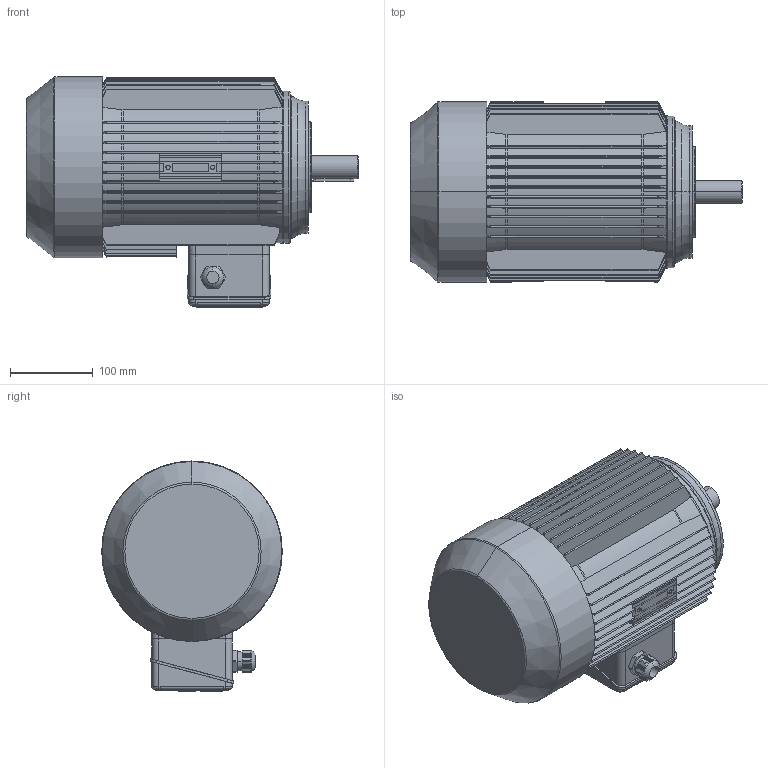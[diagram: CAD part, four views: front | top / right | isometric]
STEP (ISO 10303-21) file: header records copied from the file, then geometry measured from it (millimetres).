
FILE_DESCRIPTION (( 'STEP AP214' ), '1' );
FILE_NAME ('MAP112M2A IM3641 FT130.STEP', '2020-12-23T13:09:32', ( '' ), ( '' ), 'SwSTEP 2.0', 'SolidWorks 2018', '' );
FILE_SCHEMA (( 'AUTOMOTIVE_DESIGN' ));
Length unit declared in the file: millimetre
Products named in the file (1): MAP112M2A IM3641 FT130
Bounding box: 401.5 x 218.5 x 278.25 mm (x, y, z)
Volume: 10522963.6 mm3; surface area: 643084.7 mm2
Topology: 3 solids, 8 shells, 1045 faces, 2810 edges, 1827 vertices
Faces by surface type: plane 498, cylinder 209, cone 153, torus 106, bspline 77, sphere 2
Entity records: 39201 total; most frequent: CARTESIAN_POINT 14366, ORIENTED_EDGE 5616, DIRECTION 4546, EDGE_CURVE 2808, VERTEX_POINT 1827, AXIS2_PLACEMENT_3D 1586, LINE 1374, VECTOR 1374
